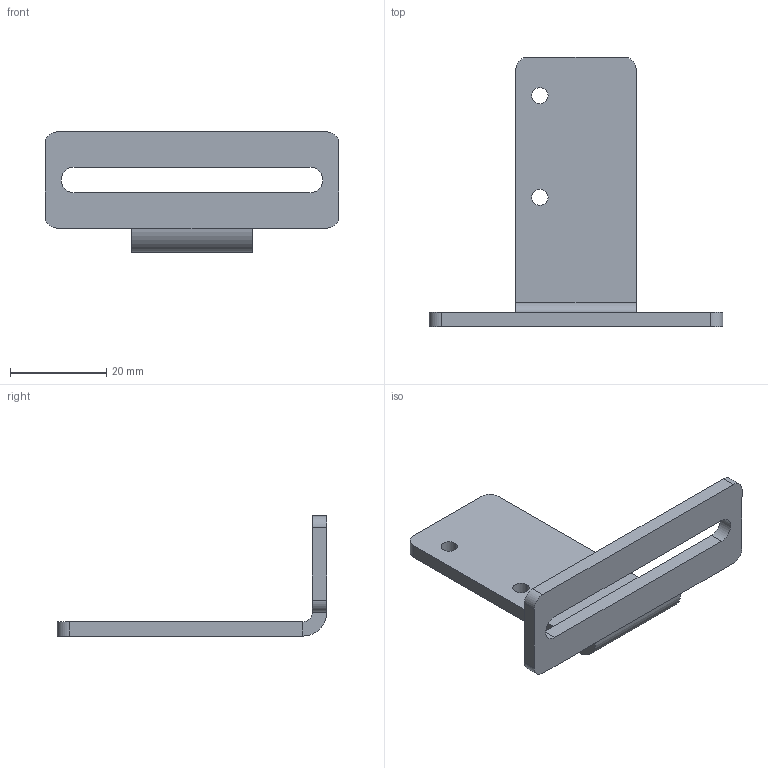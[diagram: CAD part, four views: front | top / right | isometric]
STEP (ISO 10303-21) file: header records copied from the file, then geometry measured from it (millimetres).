
FILE_DESCRIPTION (( 'STEP AP214' ), '1' );
FILE_NAME ('AGZ061.08_V1激光传感器支架.STEP', '2021-09-24T03:40:29', ( '微软中国' ), ( 'Microsoft' ), 'SwSTEP 2.0', 'SolidWorks 2017', '' );
FILE_SCHEMA (( 'AUTOMOTIVE_DESIGN' ));
Length unit declared in the file: millimetre
Products named in the file (1): AGZ061.08_V1慾嫖換覜ん盓殤
Bounding box: 61 x 56 x 25 mm (x, y, z)
Volume: 6973.4 mm3; surface area: 5862.7 mm2
Topology: 1 solids, 1 shells, 30 faces, 76 edges, 48 vertices
Faces by surface type: plane 16, cylinder 14
Entity records: 950 total; most frequent: DIRECTION 166, CARTESIAN_POINT 155, ORIENTED_EDGE 152, EDGE_CURVE 76, AXIS2_PLACEMENT_3D 59, LINE 48, VECTOR 48, VERTEX_POINT 48
